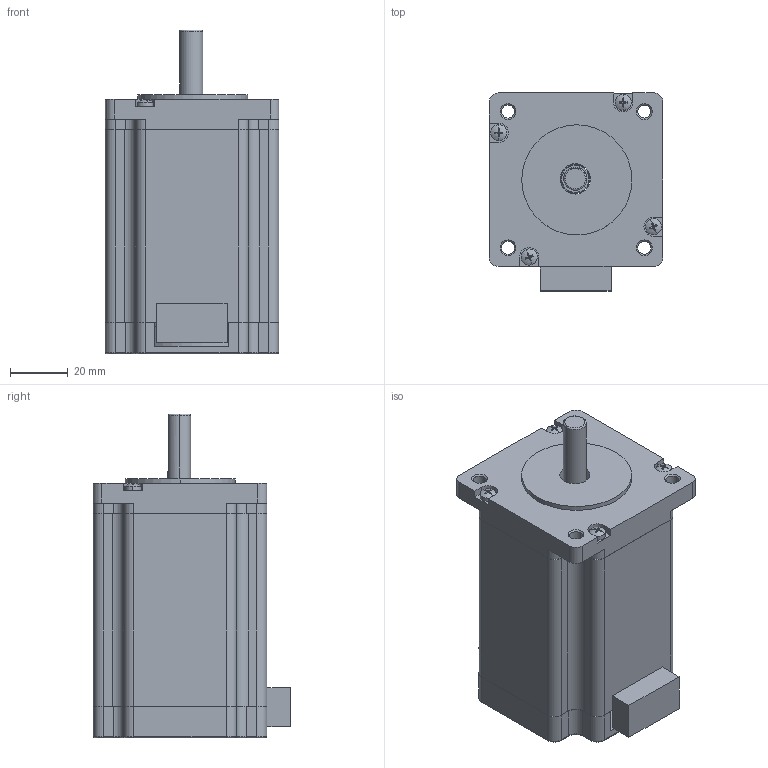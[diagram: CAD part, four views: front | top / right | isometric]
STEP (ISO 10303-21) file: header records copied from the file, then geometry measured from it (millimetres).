
FILE_DESCRIPTION (( 'STEP AP203' ), '1' );
FILE_NAME ('YK60HB86-04A.STEP', '2018-05-30T06:25:37', ( 'PC' ), ( '' ), 'SwSTEP 2.0', 'SolidWorks 2014', '' );
FILE_SCHEMA (( 'CONFIG_CONTROL_DESIGN' ));
Length unit declared in the file: millimetre
Products named in the file (7): ヶ裔; 綴裔; 隅赽; 粣; 坋趼羞攫芛蹟隊; 堤盄傷赽; YK60HB86-04A
Assembly tree (9 placements, depth 2):
  YK60HB86-04A
    ヶ裔
    綴裔
    隅赽
    粣
    坋趼羞攫芛蹟隊  x4
    堤盄傷赽
Bounding box: 60.11 x 68.35 x 112 mm (x, y, z)
Volume: 184277.5 mm3; surface area: 63530.3 mm2
Topology: 9 solids, 9 shells, 2239 faces, 4626 edges, 2421 vertices
Faces by surface type: cone 1912, plane 154, cylinder 136, torus 29, sphere 8
Entity records: 20980 total; most frequent: DIRECTION 3929, CARTESIAN_POINT 3325, ORIENTED_EDGE 3264, EDGE_CURVE 1632, AXIS2_PLACEMENT_3D 1542, VERTEX_POINT 912, LINE 845, VECTOR 845
